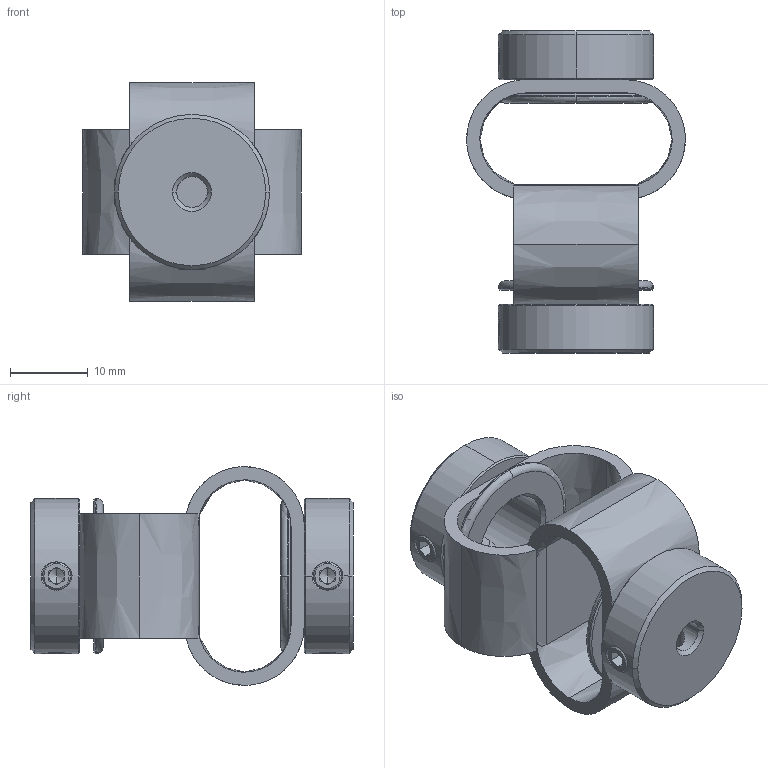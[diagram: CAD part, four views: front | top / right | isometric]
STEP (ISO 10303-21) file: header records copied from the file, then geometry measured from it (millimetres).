
FILE_DESCRIPTION (( 'STEP AP203' ), '1' );
FILE_NAME ('LS-D-D27L40-4-11.STEP', '2021-10-28T06:07:02', ( '' ), ( '' ), 'SwSTEP 2.0', 'SolidWorks 2018', '' );
FILE_SCHEMA (( 'CONFIG_CONTROL_DESIGN' ));
Length unit declared in the file: millimetre
Products named in the file (1): LS-D-D27L40-4-11
Bounding box: 28.2 x 41.54 x 28.2 mm (x, y, z)
Volume: 6860.5 mm3; surface area: 6697.3 mm2
Topology: 1 solids, 1 shells, 214 faces, 547 edges, 338 vertices
Faces by surface type: plane 86, cone 74, cylinder 34, bspline 16, torus 4
Entity records: 8400 total; most frequent: CARTESIAN_POINT 3325, ORIENTED_EDGE 1078, DIRECTION 990, EDGE_CURVE 539, AXIS2_PLACEMENT_3D 389, VERTEX_POINT 338, EDGE_LOOP 241, ADVANCED_FACE 214
